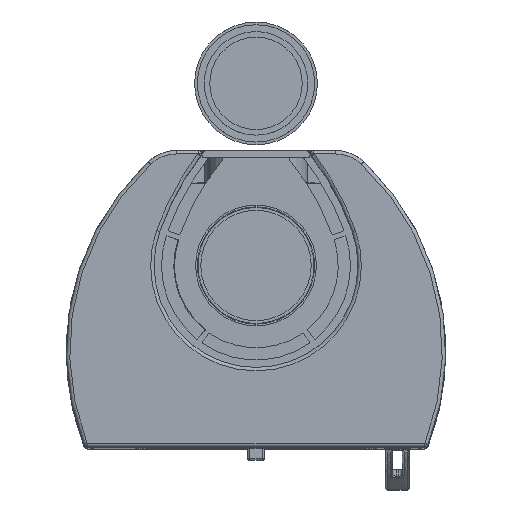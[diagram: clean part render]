
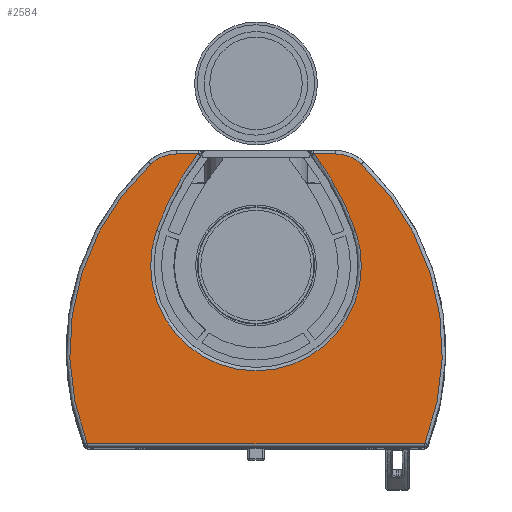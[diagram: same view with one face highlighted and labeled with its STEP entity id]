
A CAD part, top view. The second image highlights one B-rep face of the part: STEP entity #2584.
In plain terms, the highlighted planar face has unit normal (0, 0, 1).
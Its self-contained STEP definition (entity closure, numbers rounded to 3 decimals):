
#2584 = ADVANCED_FACE( '', ( #6954 ), #6955, .T. );
#6954 = FACE_OUTER_BOUND( '', #15261, .T. );
#6955 = PLANE( '', #15262 );
#15261 = EDGE_LOOP( '', ( #35089, #35090, #35091, #35092, #35093, #35094, #35095, #35096, #35097, #35098, #35099, #35100 ) );
#15262 = AXIS2_PLACEMENT_3D( '', #35101, #35102, #35103 );
#35089 = ORIENTED_EDGE( '', *, *, #53316, .T. );
#35090 = ORIENTED_EDGE( '', *, *, #53317, .F. );
#35091 = ORIENTED_EDGE( '', *, *, #53318, .F. );
#35092 = ORIENTED_EDGE( '', *, *, #53319, .F. );
#35093 = ORIENTED_EDGE( '', *, *, #53320, .F. );
#35094 = ORIENTED_EDGE( '', *, *, #53321, .F. );
#35095 = ORIENTED_EDGE( '', *, *, #53322, .T. );
#35096 = ORIENTED_EDGE( '', *, *, #52157, .T. );
#35097 = ORIENTED_EDGE( '', *, *, #53323, .T. );
#35098 = ORIENTED_EDGE( '', *, *, #53324, .T. );
#35099 = ORIENTED_EDGE( '', *, *, #53325, .T. );
#35100 = ORIENTED_EDGE( '', *, *, #53326, .T. );
#35101 = CARTESIAN_POINT( '', ( 0., -266.665, 1599. ) );
#35102 = DIRECTION( '', ( 0., 0., 1. ) );
#35103 = DIRECTION( '', ( 1., 0., 0. ) );
#52157 = EDGE_CURVE( '', #59219, #59217, #59220, .F. );
#53316 = EDGE_CURVE( '', #61278, #61279, #61280, .F. );
#53317 = EDGE_CURVE( '', #61281, #61279, #61282, .T. );
#53318 = EDGE_CURVE( '', #61283, #61281, #61284, .T. );
#53319 = EDGE_CURVE( '', #61285, #61283, #61286, .T. );
#53320 = EDGE_CURVE( '', #61287, #61285, #61288, .F. );
#53321 = EDGE_CURVE( '', #61289, #61287, #61290, .F. );
#53322 = EDGE_CURVE( '', #61289, #59219, #61291, .F. );
#53323 = EDGE_CURVE( '', #59217, #61292, #61293, .F. );
#53324 = EDGE_CURVE( '', #61292, #61294, #61295, .T. );
#53325 = EDGE_CURVE( '', #61294, #61296, #61297, .T. );
#53326 = EDGE_CURVE( '', #61296, #61278, #61298, .T. );
#59217 = VERTEX_POINT( '', #69769 );
#59219 = VERTEX_POINT( '', #69786 );
#59220 = CIRCLE( '', #69787, 406. );
#61278 = VERTEX_POINT( '', #77213 );
#61279 = VERTEX_POINT( '', #77214 );
#61280 = LINE( '', #77215, #77216 );
#61281 = VERTEX_POINT( '', #77217 );
#61282 = CIRCLE( '', #77218, 1. );
#61283 = VERTEX_POINT( '', #77219 );
#61284 = CIRCLE( '', #77220, 370. );
#61285 = VERTEX_POINT( '', #77221 );
#61286 = CIRCLE( '', #77222, 55. );
#61287 = VERTEX_POINT( '', #77223 );
#61288 = LINE( '', #77224, #77225 );
#61289 = VERTEX_POINT( '', #77226 );
#61290 = CIRCLE( '', #77227, 406. );
#61291 = CIRCLE( '', #77228, 152.719 );
#61292 = VERTEX_POINT( '', #77229 );
#61293 = LINE( '', #77230, #77231 );
#61294 = VERTEX_POINT( '', #77232 );
#61295 = CIRCLE( '', #77233, 55. );
#61296 = VERTEX_POINT( '', #77234 );
#61297 = CIRCLE( '', #77235, 370. );
#61298 = CIRCLE( '', #77236, 1. );
#69769 = CARTESIAN_POINT( '', ( -84.307, -105., 1599. ) );
#69786 = CARTESIAN_POINT( '', ( -144.082, -216.035, 1599. ) );
#69787 = AXIS2_PLACEMENT_3D( '', #103249, #103250, #103251 );
#77213 = CARTESIAN_POINT( '', ( -243.81, -525., 1599. ) );
#77214 = CARTESIAN_POINT( '', ( 243.81, -525., 1599. ) );
#77215 = CARTESIAN_POINT( '', ( 0., -525., 1599. ) );
#77216 = VECTOR( '', #104288, 1000. );
#77217 = CARTESIAN_POINT( '', ( 244.741, -524.363, 1599. ) );
#77218 = AXIS2_PLACEMENT_3D( '', #104289, #104290, #104291 );
#77219 = CARTESIAN_POINT( '', ( 152.813, -119.841, 1599. ) );
#77220 = AXIS2_PLACEMENT_3D( '', #104292, #104293, #104294 );
#77221 = CARTESIAN_POINT( '', ( 115.232, -105., 1599. ) );
#77222 = AXIS2_PLACEMENT_3D( '', #104295, #104296, #104297 );
#77223 = CARTESIAN_POINT( '', ( 84.307, -105., 1599. ) );
#77224 = CARTESIAN_POINT( '', ( 0., -105., 1599. ) );
#77225 = VECTOR( '', #104298, 1000. );
#77226 = CARTESIAN_POINT( '', ( 144.082, -216.035, 1599. ) );
#77227 = AXIS2_PLACEMENT_3D( '', #104299, #104300, #104301 );
#77228 = AXIS2_PLACEMENT_3D( '', #104302, #104303, #104304 );
#77229 = CARTESIAN_POINT( '', ( -115.232, -105., 1599. ) );
#77230 = CARTESIAN_POINT( '', ( 0., -105., 1599. ) );
#77231 = VECTOR( '', #104305, 1000. );
#77232 = CARTESIAN_POINT( '', ( -152.813, -119.841, 1599. ) );
#77233 = AXIS2_PLACEMENT_3D( '', #104306, #104307, #104308 );
#77234 = CARTESIAN_POINT( '', ( -244.741, -524.363, 1599. ) );
#77235 = AXIS2_PLACEMENT_3D( '', #104309, #104310, #104311 );
#77236 = AXIS2_PLACEMENT_3D( '', #104312, #104313, #104314 );
#103249 = CARTESIAN_POINT( '', ( 238.957, -350.634, 1599. ) );
#103250 = DIRECTION( '', ( 0., 0., 1. ) );
#103251 = DIRECTION( '', ( 1., 0., 0. ) );
#104288 = DIRECTION( '', ( -1., 0., 0. ) );
#104289 = CARTESIAN_POINT( '', ( 243.81, -524., 1599. ) );
#104290 = DIRECTION( '', ( 0., 0., -1. ) );
#104291 = DIRECTION( '', ( -1., 0., 0. ) );
#104292 = CARTESIAN_POINT( '', ( -100., -390., 1599. ) );
#104293 = DIRECTION( '', ( 0., 0., -1. ) );
#104294 = DIRECTION( '', ( -1., 0., 0. ) );
#104295 = CARTESIAN_POINT( '', ( 115.232, -160., 1599. ) );
#104296 = DIRECTION( '', ( 0., 0., -1. ) );
#104297 = DIRECTION( '', ( -1., 0., 0. ) );
#104298 = DIRECTION( '', ( -1., 0., 0. ) );
#104299 = CARTESIAN_POINT( '', ( -238.957, -350.634, 1599. ) );
#104300 = DIRECTION( '', ( 0., 0., -1. ) );
#104301 = DIRECTION( '', ( -1., 0., 0. ) );
#104302 = CARTESIAN_POINT( '', ( 0., -266.665, 1599. ) );
#104303 = DIRECTION( '', ( 0., 0., 1. ) );
#104304 = DIRECTION( '', ( 1., 0., 0. ) );
#104305 = DIRECTION( '', ( 1., 0., 0. ) );
#104306 = CARTESIAN_POINT( '', ( -115.232, -160., 1599. ) );
#104307 = DIRECTION( '', ( 0., 0., 1. ) );
#104308 = DIRECTION( '', ( 1., 0., 0. ) );
#104309 = CARTESIAN_POINT( '', ( 100., -390., 1599. ) );
#104310 = DIRECTION( '', ( 0., 0., 1. ) );
#104311 = DIRECTION( '', ( 1., 0., 0. ) );
#104312 = CARTESIAN_POINT( '', ( -243.81, -524., 1599. ) );
#104313 = DIRECTION( '', ( 0., 0., 1. ) );
#104314 = DIRECTION( '', ( 1., 0., 0. ) );
